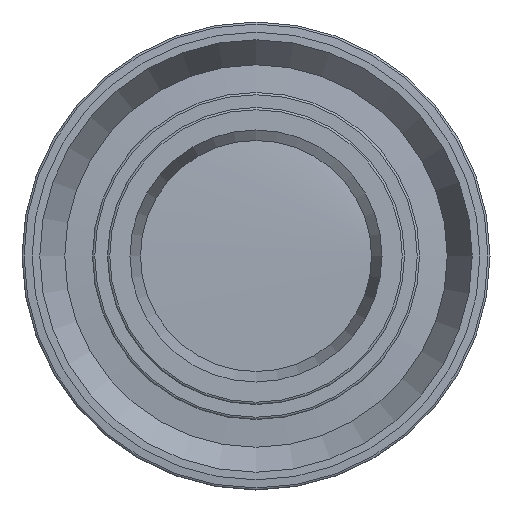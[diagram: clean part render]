
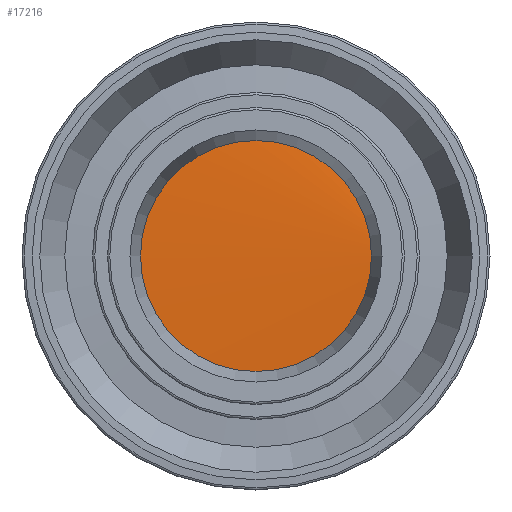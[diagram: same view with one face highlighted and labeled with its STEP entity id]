
A CAD part, left-side view. The second image highlights one B-rep face of the part: STEP entity #17216.
In plain terms, the highlighted cylindrical face has radius 10.45 mm (diameter 20.9 mm), a full revolution.
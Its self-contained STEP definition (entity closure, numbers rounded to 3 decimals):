
#1437=FACE_OUTER_BOUND('',#2423,.T.);
#2423=EDGE_LOOP('',(#11726,#11727,#11728));
#3513=B_SPLINE_CURVE_WITH_KNOTS('',3,(#22525,#22526,#22527,#22528,#22529,
#22530,#22531,#22532,#22533,#22534,#22535,#22536,#22537,#22538,#22539,#22540,
#22541,#22542,#22543,#22544,#22545,#22546,#22547,#22548,#22549,#22550,#22551,
#22552,#22553,#22554,#22555,#22556,#22557,#22558,#22559,#22560,#22561,#22562,
#22563,#22564,#22565,#22566,#22567),.UNSPECIFIED.,.F.,.F.,(4,3,3,3,3,3,
3,3,3,3,3,3,3,3,4),(-21.991,-21.642,-21.155,
-20.668,-20.182,-19.695,-19.208,
-18.721,-18.234,-17.747,-17.26,
-16.774,-16.287,-15.8,-15.708),
 .UNSPECIFIED.);
#4382=LINE('',#22522,#5795);
#4383=LINE('',#22524,#5796);
#5795=VECTOR('',#19187,10.45);
#5796=VECTOR('',#19188,10.45);
#7208=VERTEX_POINT('',#22520);
#7209=VERTEX_POINT('',#22521);
#7210=VERTEX_POINT('',#22523);
#9025=EDGE_CURVE('',#7208,#7209,#4382,.T.);
#9026=EDGE_CURVE('',#7208,#7210,#4383,.T.);
#9027=EDGE_CURVE('',#7210,#7209,#3513,.T.);
#11726=ORIENTED_EDGE('',*,*,#9025,.F.);
#11727=ORIENTED_EDGE('',*,*,#9026,.T.);
#11728=ORIENTED_EDGE('',*,*,#9027,.T.);
#17128=CYLINDRICAL_SURFACE('',#18223,10.45);
#17216=ADVANCED_FACE('',(#1437),#17128,.T.);
#18223=AXIS2_PLACEMENT_3D('',#22519,#19185,#19186);
#19185=DIRECTION('center_axis',(1.,0.,0.));
#19186=DIRECTION('ref_axis',(0.,1.,0.));
#19187=DIRECTION('',(1.,0.,0.));
#19188=DIRECTION('',(-1.,0.,0.));
#22519=CARTESIAN_POINT('Origin',(27.7,0.,0.));
#22520=CARTESIAN_POINT('',(29.2,-10.45,0.));
#22521=CARTESIAN_POINT('',(30.9,-10.45,0.));
#22522=CARTESIAN_POINT('',(27.7,-10.45,0.));
#22523=CARTESIAN_POINT('',(29.1,-10.45,0.));
#22524=CARTESIAN_POINT('',(27.7,-10.45,0.));
#22525=CARTESIAN_POINT('Ctrl Pts',(29.1,-10.45,0.));
#22526=CARTESIAN_POINT('Ctrl Pts',(29.133,-10.449,-1.216));
#22527=CARTESIAN_POINT('Ctrl Pts',(29.167,-10.236,-2.432));
#22528=CARTESIAN_POINT('Ctrl Pts',(29.2,-9.821,-3.574));
#22529=CARTESIAN_POINT('Ctrl Pts',(29.246,-9.241,-5.168));
#22530=CARTESIAN_POINT('Ctrl Pts',(29.293,-8.265,-6.617));
#22531=CARTESIAN_POINT('Ctrl Pts',(29.339,-7.007,-7.754));
#22532=CARTESIAN_POINT('Ctrl Pts',(29.386,-5.749,-8.89));
#22533=CARTESIAN_POINT('Ctrl Pts',(29.432,-4.209,-9.715));
#22534=CARTESIAN_POINT('Ctrl Pts',(29.479,-2.566,-10.131));
#22535=CARTESIAN_POINT('Ctrl Pts',(29.525,-0.922,
-10.547));
#22536=CARTESIAN_POINT('Ctrl Pts',(29.572,0.825,-10.555));
#22537=CARTESIAN_POINT('Ctrl Pts',(29.618,2.472,-10.154));
#22538=CARTESIAN_POINT('Ctrl Pts',(29.665,4.12,-9.753));
#22539=CARTESIAN_POINT('Ctrl Pts',(29.711,5.667,-8.943));
#22540=CARTESIAN_POINT('Ctrl Pts',(29.758,6.936,-7.818));
#22541=CARTESIAN_POINT('Ctrl Pts',(29.804,8.204,-6.692));
#22542=CARTESIAN_POINT('Ctrl Pts',(29.851,9.193,-5.252));
#22543=CARTESIAN_POINT('Ctrl Pts',(29.897,9.787,-3.664));
#22544=CARTESIAN_POINT('Ctrl Pts',(29.944,10.382,-2.077));
#22545=CARTESIAN_POINT('Ctrl Pts',(29.99,10.582,-0.341));
#22546=CARTESIAN_POINT('Ctrl Pts',(30.037,10.365,1.34));
#22547=CARTESIAN_POINT('Ctrl Pts',(30.083,10.147,3.022));
#22548=CARTESIAN_POINT('Ctrl Pts',(30.13,9.512,4.649));
#22549=CARTESIAN_POINT('Ctrl Pts',(30.176,8.533,6.034));
#22550=CARTESIAN_POINT('Ctrl Pts',(30.223,7.554,7.418));
#22551=CARTESIAN_POINT('Ctrl Pts',(30.269,6.232,8.559));
#22552=CARTESIAN_POINT('Ctrl Pts',(30.316,4.719,9.325));
#22553=CARTESIAN_POINT('Ctrl Pts',(30.362,3.206,10.09));
#22554=CARTESIAN_POINT('Ctrl Pts',(30.409,1.503,10.48));
#22555=CARTESIAN_POINT('Ctrl Pts',(30.455,-0.192,
10.449));
#22556=CARTESIAN_POINT('Ctrl Pts',(30.502,-1.887,10.418));
#22557=CARTESIAN_POINT('Ctrl Pts',(30.548,-3.575,9.966));
#22558=CARTESIAN_POINT('Ctrl Pts',(30.595,-5.058,9.145));
#22559=CARTESIAN_POINT('Ctrl Pts',(30.641,-6.542,8.325));
#22560=CARTESIAN_POINT('Ctrl Pts',(30.688,-7.822,7.135));
#22561=CARTESIAN_POINT('Ctrl Pts',(30.734,-8.749,5.716));
#22562=CARTESIAN_POINT('Ctrl Pts',(30.781,-9.676,4.297));
#22563=CARTESIAN_POINT('Ctrl Pts',(30.827,-10.251,2.647));
#22564=CARTESIAN_POINT('Ctrl Pts',(30.874,-10.407,0.959));
#22565=CARTESIAN_POINT('Ctrl Pts',(30.882,-10.436,0.64));
#22566=CARTESIAN_POINT('Ctrl Pts',(30.891,-10.451,0.32));
#22567=CARTESIAN_POINT('Ctrl Pts',(30.9,-10.45,0.));
